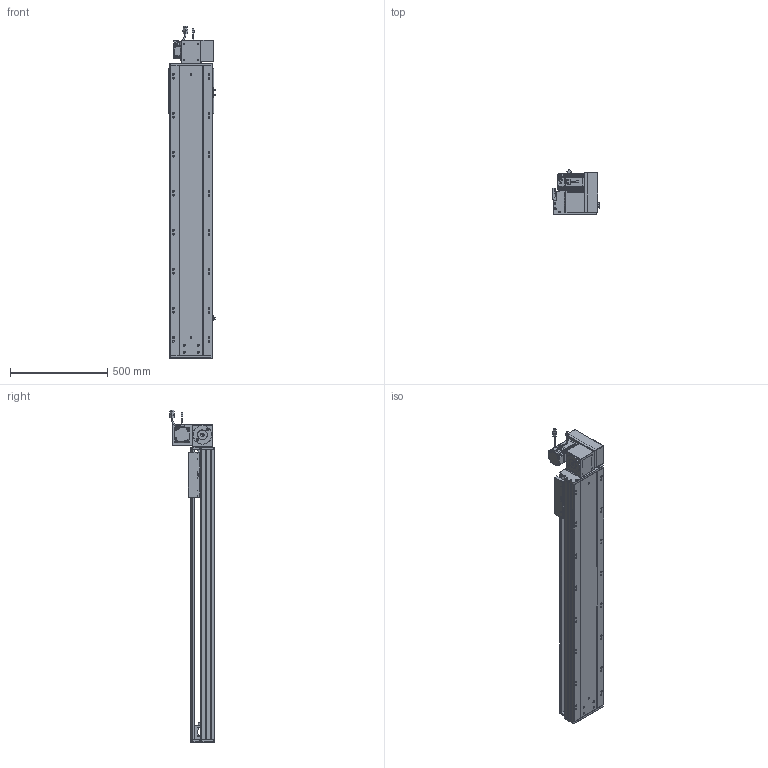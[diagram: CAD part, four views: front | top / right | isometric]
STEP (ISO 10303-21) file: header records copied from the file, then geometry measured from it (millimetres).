
FILE_DESCRIPTION (( 'STEP AP203' ), '1' );
FILE_NAME ('RY220-T-300-UR.SLDASM_1150.step', '2022-07-25T08:43:32', ( '' ), ( '' ), 'SwSTEP 2.0', 'SolidWorks 2016', '' );
FILE_SCHEMA (( 'CONFIG_CONTROL_DESIGN' ));
Length unit declared in the file: millimetre
Products named in the file (14): RY220圉猾敕々湍臏賑輸; 110A-T-肮祭謫釱傷裔; 滅袉蝶18-15; RY220-同步轮副支撑座6304×2; RY220-T-蛌殏萇儂假蚾啣(750W); RY220-T菁釱-300_1150; RY220-T-300-奻裔啣_1150; RY220-俋离672覜茼んえ; RY220-T-300-UR.SLDASM_1150; 覜茼ん672; RY220翋肮祭謫裔啣; RY220翋肮祭謫釱; RY220-T-湍謫欶(鍼踢); 怢湛750W_ECMA-CX0807ES
Assembly tree (18 placements, depth 2):
  RY220-T-300-UR.SLDASM_1150
    RY220-T菁釱-300_1150
    RY220翋肮祭謫釱
    覜茼ん672  x3
    RY220圉猾敕々湍臏賑輸
    RY220-T-300-奻裔啣_1150
    RY220-俋离672覜茼んえ
    滅袉蝶18-15  x3
    RY220翋肮祭謫裔啣  x2
    110A-T-肮祭謫釱傷裔
    怢湛750W_ECMA-CX0807ES
    RY220-T-湍謫欶(鍼踢)
    RY220-T-蛌殏萇儂假蚾啣(750W)
    RY220-同步轮副支撑座6304×2
Bounding box: 238.7 x 231.74 x 1703.27 mm (x, y, z)
Volume: 13231342.6 mm3; surface area: 3896571.1 mm2
Topology: 19 solids, 19 shells, 2654 faces, 7323 edges, 4642 vertices
Faces by surface type: cylinder 1246, plane 1069, cone 257, bspline 56, sphere 16, torus 10
Entity records: 88291 total; most frequent: CARTESIAN_POINT 25167, ORIENTED_EDGE 13114, DIRECTION 12408, EDGE_CURVE 6557, AXIS2_PLACEMENT_3D 4392, VERTEX_POINT 4266, VECTOR 3624, LINE 3624
